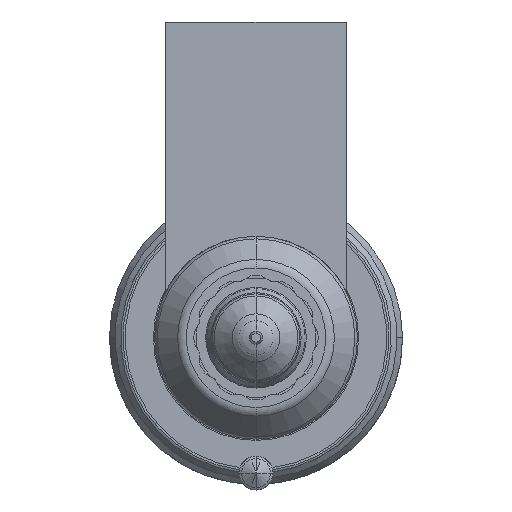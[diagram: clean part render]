
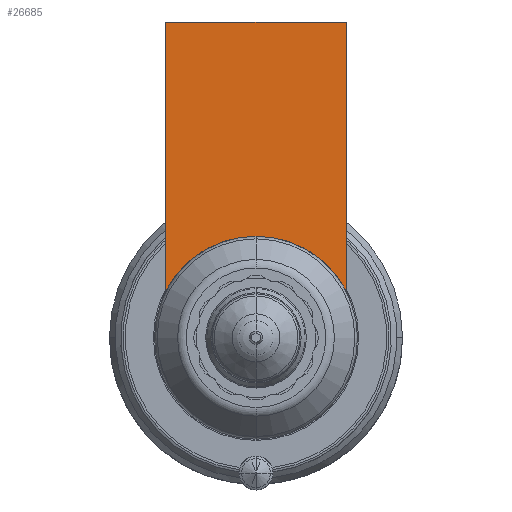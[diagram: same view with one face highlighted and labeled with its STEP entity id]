
A CAD part, front view. The second image highlights one B-rep face of the part: STEP entity #26685.
In plain terms, the highlighted planar face has unit normal (0, -1, 0).
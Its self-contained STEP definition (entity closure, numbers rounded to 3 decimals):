
#25808=DIRECTION('',(1.,0.,0.));
#25809=VECTOR('',#25808,16.);
#25810=CARTESIAN_POINT('',(-8.,-54.,28.));
#25811=LINE('',#25810,#25809);
#25816=CARTESIAN_POINT('',(0.,-54.,0.));
#25817=DIRECTION('',(0.,-1.,0.));
#25818=DIRECTION('',(0.889,0.,0.458));
#25819=AXIS2_PLACEMENT_3D('',#25816,#25817,#25818);
#25824=CARTESIAN_POINT('',(0.,-54.,0.));
#25825=DIRECTION('',(0.,-1.,0.));
#25826=DIRECTION('',(0.,0.,1.));
#25827=AXIS2_PLACEMENT_3D('',#25824,#25825,#25826);
#25853=DIRECTION('',(0.,0.,-1.));
#25854=VECTOR('',#25853,23.877);
#25855=CARTESIAN_POINT('',(-8.,-54.,28.));
#25856=LINE('',#25855,#25854);
#26529=DIRECTION('',(0.,0.,-1.));
#26530=VECTOR('',#26529,23.877);
#26531=CARTESIAN_POINT('',(8.,-54.,28.));
#26532=LINE('',#26531,#26530);
#26582=CARTESIAN_POINT('',(-8.,-54.,28.));
#26583=VERTEX_POINT('',#26582);
#26588=CARTESIAN_POINT('',(8.,-54.,28.));
#26589=VERTEX_POINT('',#26588);
#26592=CARTESIAN_POINT('',(-8.,-54.,4.123));
#26593=VERTEX_POINT('',#26592);
#26596=CARTESIAN_POINT('',(8.,-54.,4.123));
#26597=VERTEX_POINT('',#26596);
#26666=CARTESIAN_POINT('',(0.,-54.,9.));
#26667=VERTEX_POINT('',#26666);
#26668=CARTESIAN_POINT('',(0.,-54.,9.));
#26669=DIRECTION('',(0.,1.,0.));
#26670=DIRECTION('',(0.,0.,-1.));
#26671=AXIS2_PLACEMENT_3D('',#26668,#26669,#26670);
#26672=PLANE('',#26671);
#26674=ORIENTED_EDGE('',*,*,#26673,.F.);
#26676=ORIENTED_EDGE('',*,*,#26675,.T.);
#26678=ORIENTED_EDGE('',*,*,#26677,.T.);
#26680=ORIENTED_EDGE('',*,*,#26679,.T.);
#26682=ORIENTED_EDGE('',*,*,#26681,.T.);
#26683=EDGE_LOOP('',(#26674,#26676,#26678,#26680,#26682));
#26684=FACE_OUTER_BOUND('',#26683,.F.);
#26685=ADVANCED_FACE('',(#26684),#26672,.F.);
#25820=CIRCLE('',#25819,9.);
#25828=CIRCLE('',#25827,9.);
#26673=EDGE_CURVE('',#26583,#26593,#25856,.T.);
#26675=EDGE_CURVE('',#26583,#26589,#25811,.T.);
#26677=EDGE_CURVE('',#26589,#26597,#26532,.T.);
#26679=EDGE_CURVE('',#26597,#26667,#25820,.T.);
#26681=EDGE_CURVE('',#26667,#26593,#25828,.T.);
